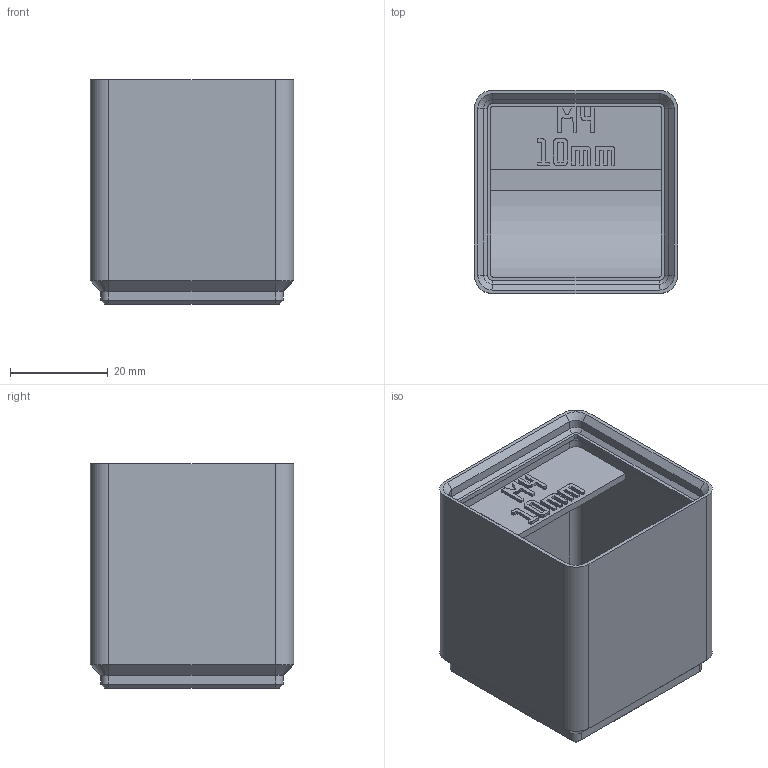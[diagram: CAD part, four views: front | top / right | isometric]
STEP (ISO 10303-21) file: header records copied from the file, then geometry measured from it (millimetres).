
FILE_DESCRIPTION(('Open CASCADE Model'),'2;1');
FILE_NAME('Open CASCADE Shape Model','2026-11-03T10:25:07',('Author'),( 'Open CASCADE'),'Open CASCADE STEP processor 8.0','build123d', 'Unknown');
FILE_SCHEMA(('AUTOMOTIVE_DESIGN { 1 0 10303 214 1 1 1 1 }'));
Length unit declared in the file: millimetre
Products named in the file (1): COMPOUND
Bounding box: 41.5 x 41.5 x 45.8 mm (x, y, z)
Volume: 30322.2 mm3; surface area: 16390.2 mm2
Topology: 1 solids, 1 shells, 613 faces, 1750 edges, 1148 vertices
Faces by surface type: plane 570, cylinder 23, cone 20
Entity records: 41248 total; most frequent: CARTESIAN_POINT 8484, DIRECTION 5282, LINE 3926, VECTOR 3926, ORIENTED_EDGE 3500, PCURVE 3500, DEFINITIONAL_REPRESENTATION 3500, EDGE_CURVE 1750
